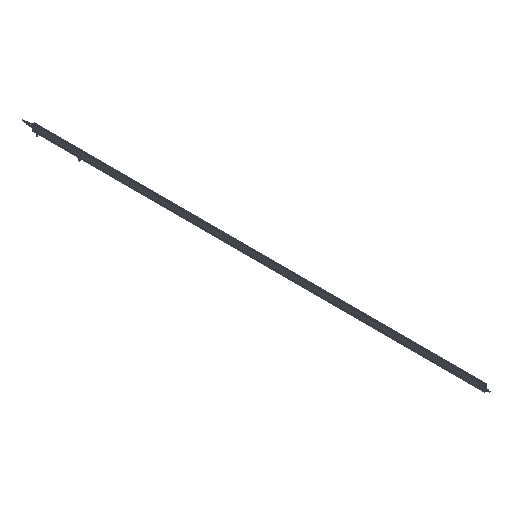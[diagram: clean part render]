
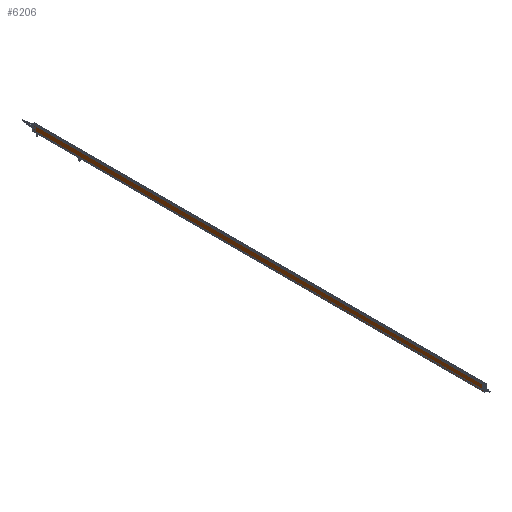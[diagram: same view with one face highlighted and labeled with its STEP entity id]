
A CAD part, isometric view. The second image highlights one B-rep face of the part: STEP entity #6206.
In plain terms, the highlighted planar face has unit normal (-1, 0, 0).
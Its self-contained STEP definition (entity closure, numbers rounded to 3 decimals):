
#1919 = EDGE_CURVE ( 'NONE', #28509, #14196, #30784, .T. ) ;
#3750 = CARTESIAN_POINT ( 'NONE',  ( -9., 2122., 28.5 ) ) ;
#5718 = DIRECTION ( 'NONE',  ( 0., -1., 0. ) ) ;
#6206 = ADVANCED_FACE ( 'NONE', ( #29339 ), #19589, .T. ) ;
#6317 = VECTOR ( 'NONE', #8931, 1000. ) ;
#6340 = EDGE_CURVE ( 'NONE', #16702, #28154, #26095, .T. ) ;
#7711 = ORIENTED_EDGE ( 'NONE', *, *, #1919, .T. ) ;
#7783 = CARTESIAN_POINT ( 'NONE',  ( -9., 0., 0.5 ) ) ;
#8931 = DIRECTION ( 'NONE',  ( 0., -1., 0. ) ) ;
#9067 = LINE ( 'NONE', #32352, #19324 ) ;
#11339 = CARTESIAN_POINT ( 'NONE',  ( -9., 0., 28.5 ) ) ;
#12684 = CARTESIAN_POINT ( 'NONE',  ( -9., 2122., 28.5 ) ) ;
#14196 = VERTEX_POINT ( 'NONE', #32338 ) ;
#14768 = CARTESIAN_POINT ( 'NONE',  ( -9., 2122., 28.5 ) ) ;
#15936 = EDGE_LOOP ( 'NONE', ( #17167, #22949, #7711, #24470 ) ) ;
#16702 = VERTEX_POINT ( 'NONE', #11339 ) ;
#17167 = ORIENTED_EDGE ( 'NONE', *, *, #6340, .F. ) ;
#19324 = VECTOR ( 'NONE', #5718, 1000. ) ;
#19589 = PLANE ( 'NONE',  #29170 ) ;
#20583 = EDGE_CURVE ( 'NONE', #28509, #16702, #32311, .T. ) ;
#22470 = DIRECTION ( 'NONE',  ( -1., 0., 0. ) ) ;
#22949 = ORIENTED_EDGE ( 'NONE', *, *, #20583, .F. ) ;
#22975 = EDGE_CURVE ( 'NONE', #14196, #28154, #9067, .T. ) ;
#23043 = DIRECTION ( 'NONE',  ( 0., 0., -1. ) ) ;
#24470 = ORIENTED_EDGE ( 'NONE', *, *, #22975, .T. ) ;
#25116 = DIRECTION ( 'NONE',  ( 0., -1., 0. ) ) ;
#25273 = VECTOR ( 'NONE', #23043, 1000. ) ;
#25808 = VECTOR ( 'NONE', #31545, 1000. ) ;
#26095 = LINE ( 'NONE', #28105, #25273 ) ;
#27067 = CARTESIAN_POINT ( 'NONE',  ( -9., 2122., 28.5 ) ) ;
#28105 = CARTESIAN_POINT ( 'NONE',  ( -9., 0., 28.5 ) ) ;
#28154 = VERTEX_POINT ( 'NONE', #7783 ) ;
#28509 = VERTEX_POINT ( 'NONE', #14768 ) ;
#29170 = AXIS2_PLACEMENT_3D ( 'NONE', #3750, #22470, #25116 ) ;
#29339 = FACE_OUTER_BOUND ( 'NONE', #15936, .T. ) ;
#30784 = LINE ( 'NONE', #12684, #25808 ) ;
#31545 = DIRECTION ( 'NONE',  ( 0., 0., -1. ) ) ;
#32311 = LINE ( 'NONE', #27067, #6317 ) ;
#32338 = CARTESIAN_POINT ( 'NONE',  ( -9., 2122., 0.5 ) ) ;
#32352 = CARTESIAN_POINT ( 'NONE',  ( -9., 2122., 0.5 ) ) ;
